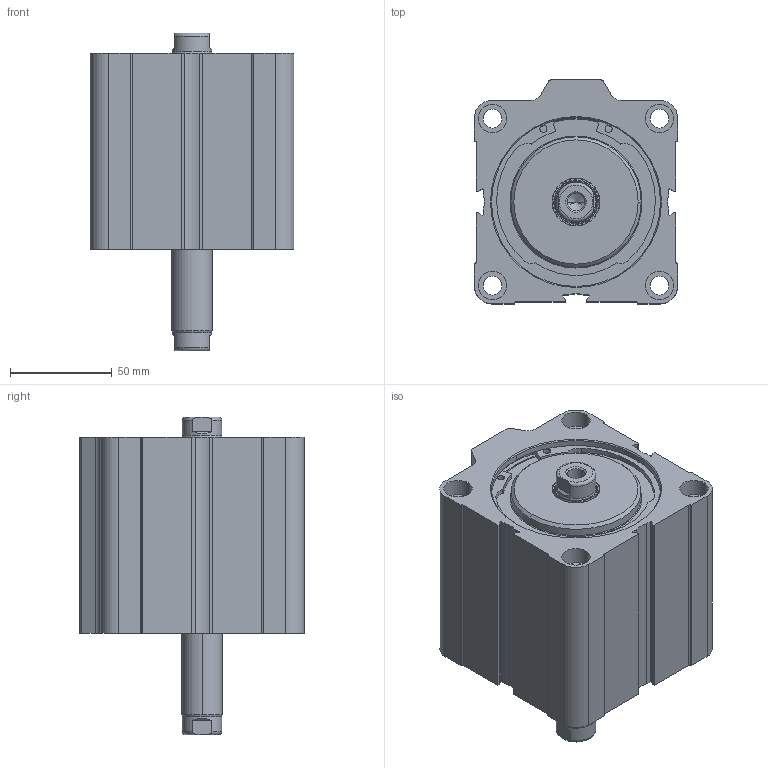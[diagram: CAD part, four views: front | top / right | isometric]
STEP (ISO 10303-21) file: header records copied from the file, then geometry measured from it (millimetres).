
FILE_DESCRIPTION (( 'STEP AP214' ), '1' );
FILE_NAME ('D11M40800040.STEP', '2021-11-09T10:55:23', ( '' ), ( '' ), 'SwSTEP 2.0', 'SolidWorks 2016', '' );
FILE_SCHEMA (( 'AUTOMOTIVE_DESIGN' ));
Length unit declared in the file: millimetre
Products named in the file (6): 22.H01.000_22.H01.040; TA Ø80 Corsa Breve WEB; D11M40800040; Pistone Ø80 corsa breve WEB; 000.507.7_22.080.040; 22.H03.000_22.H03.040
Assembly tree (6 placements, depth 2):
  D11M40800040
    000.507.7_22.080.040
    Pistone Ø80 corsa breve WEB
    22.H01.000_22.H01.040
    TA Ø80 Corsa Breve WEB  x2
    22.H03.000_22.H03.040
Bounding box: 100 x 110 x 156 mm (x, y, z)
Volume: 722129.7 mm3; surface area: 161648.8 mm2
Topology: 10 solids, 10 shells, 424 faces, 988 edges, 607 vertices
Faces by surface type: cylinder 175, cone 112, plane 109, torus 28
Entity records: 11303 total; most frequent: CARTESIAN_POINT 1859, DIRECTION 1825, ORIENTED_EDGE 1558, EDGE_CURVE 779, AXIS2_PLACEMENT_3D 725, VERTEX_POINT 487, CIRCLE 384, EDGE_LOOP 382
